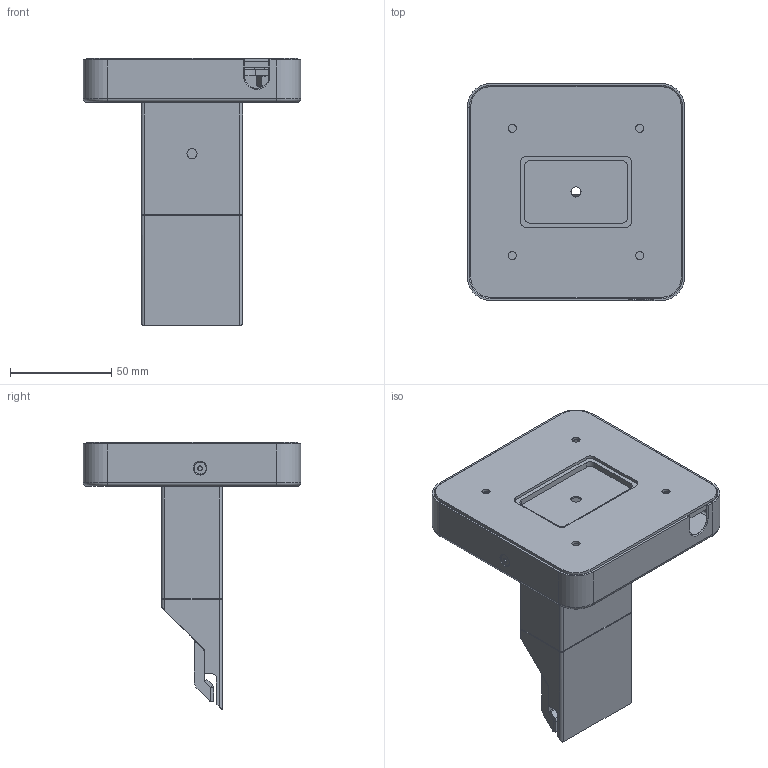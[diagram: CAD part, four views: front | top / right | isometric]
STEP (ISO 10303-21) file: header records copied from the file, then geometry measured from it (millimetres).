
FILE_DESCRIPTION (( 'STEP AP203' ), '1' );
FILE_NAME ('WALL ARM 06IN.STEP', '2023-05-25T19:38:52', ( '' ), ( '' ), 'SwSTEP 2.0', 'SolidWorks 2022', '' );
FILE_SCHEMA (( 'CONFIG_CONTROL_DESIGN' ));
Length unit declared in the file: millimetre
Products named in the file (19): BAS-000024-00; WALL ARM 06IN; ASY-006788-XX_ASY-006788-1Y (6IN); CVR-000839-00; HLD-000105-XX_HLD-000105-00; BKT-000511-00; SCW-000533-00; ASY-006795-00; SCW-000539-00_SCW-000539-00; GSK-000106-00; BKT-000519-00; NUT-000074-00_NUT-000074-00; MCP-000396-00; SCW-000538-00_SCW-000538-00; PLA-000078-00; GSK-000109-00; PLA-000089-00; ASY-006791-00; GSK-000107-00
Assembly tree (32 placements, depth 3):
  WALL ARM 06IN
    ASY-006788-XX_ASY-006788-1Y (6IN)
      BKT-000511-00
      HLD-000105-XX_HLD-000105-00
      PLA-000089-00  x4
    MCP-000396-00
    ASY-006795-00
      PLA-000078-00
      GSK-000107-00
    SCW-000539-00_SCW-000539-00  x4
    ASY-006791-00
      BAS-000024-00
      SCW-000533-00  x4
      BKT-000519-00  x2
    CVR-000839-00
    NUT-000074-00_NUT-000074-00  x4
    GSK-000106-00
    SCW-000538-00_SCW-000538-00  x2
    GSK-000109-00
Bounding box: 107.5 x 107.5 x 132.1 mm (x, y, z)
Volume: 141168.7 mm3; surface area: 149416.1 mm2
Topology: 29 solids, 37 shells, 1449 faces, 3730 edges, 2361 vertices
Faces by surface type: cylinder 586, plane 405, cone 232, bspline 156, torus 70
Entity records: 37661 total; most frequent: CARTESIAN_POINT 15927, ORIENTED_EDGE 4129, DIRECTION 4024, EDGE_CURVE 2070, AXIS2_PLACEMENT_3D 1514, VERTEX_POINT 1325, LINE 996, VECTOR 996
